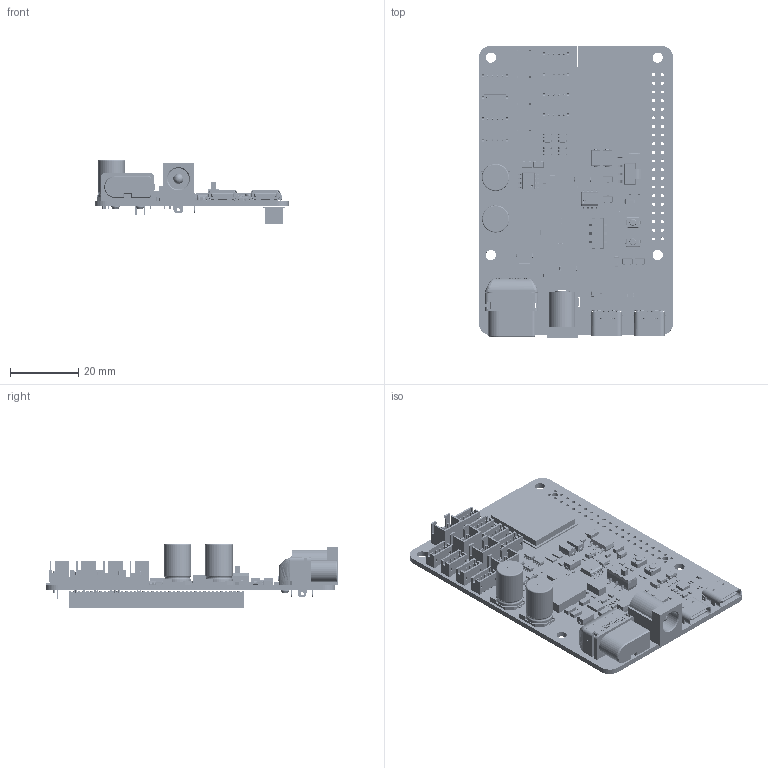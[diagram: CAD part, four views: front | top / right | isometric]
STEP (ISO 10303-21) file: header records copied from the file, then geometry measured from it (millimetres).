
FILE_DESCRIPTION(('Open CASCADE Model'),'2;1');
FILE_NAME('Open CASCADE Shape Model','2024-05-24T09:20:49',('Author'),( 'Open CASCADE'),'Open CASCADE STEP processor 6.5','Open CASCADE 6.5' ,'Unknown');
FILE_SCHEMA(('AUTOMOTIVE_DESIGN { 1 0 10303 214 1 1 1 1 }'));
Length unit declared in the file: millimetre
Products named in the file (230): PCB; Board; U11; SOT23-5-2; SOT23-5-14113_AF0_ASM; SOT23-5AND6_00; SOT23-5-14065_AF0; U10; U9; U8; R11; R0402; R_0402-5222_AF0_ASM; R_0402-3099_AF0_ASM; _2_1_20001; 5_1_2_A; _7_AF0; D8; SMA; SMA-4715_AF0_ASM; SMA-5401_AF0; R3; R4; R14; R16; J5; User_Library-XH2_54_ZC_2P; J4; P10; hc-zh1_5-4a; P9; P8; P7; P6; P5; P4; P3; J3; J2; VT2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
Assembly tree (329 placements, depth 6):
  PCB
    Board
    U11
      SOT23-5-2
        SOT23-5-14113_AF0_ASM
          SOT23-5AND6_00  x5
          SOT23-5-14065_AF0
    U10
      SOT23-5-2
        SOT23-5-14113_AF0_ASM
          SOT23-5AND6_00  x5
          SOT23-5-14065_AF0
    U9
      SOT23-5-2
        SOT23-5-14113_AF0_ASM
          SOT23-5AND6_00  x5
          SOT23-5-14065_AF0
    U8
      SOT23-5-2
        SOT23-5-14113_AF0_ASM
          SOT23-5AND6_00  x5
          SOT23-5-14065_AF0
    R11
      R0402
        R_0402-5222_AF0_ASM
          R_0402-3099_AF0_ASM
            _2_1_20001
            5_1_2_A
            _7_AF0
    D8
      SMA
        SMA-4715_AF0_ASM
          SMA-5401_AF0
    R3
      R0402
        R_0402-5222_AF0_ASM
          R_0402-3099_AF0_ASM
            _2_1_20001
            5_1_2_A
            _7_AF0
    R4
      R0402
        R_0402-5222_AF0_ASM
          R_0402-3099_AF0_ASM
            _2_1_20001
            5_1_2_A
            _7_AF0
    R14
      R0402
        R_0402-5222_AF0_ASM
          R_0402-3099_AF0_ASM
            _2_1_20001
            5_1_2_A
            _7_AF0
    R16
      R0402
        R_0402-5222_AF0_ASM
          R_0402-3099_AF0_ASM
            _2_1_20001
            5_1_2_A
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Bounding box: 57.02 x 85.96 x 18.85 mm (x, y, z)
Volume: 14898.6 mm3; surface area: 25222.3 mm2
Topology: 371 solids, 400 shells, 42862 faces, 114207 edges, 74807 vertices
Faces by surface type: plane 30071, extrusion 7783, cylinder 3354, bspline 896, sphere 470, torus 196, cone 84, revolution 8
Full cylindrical faces by diameter (mm): 0.7 x32, 0.762 x4, 0.95 x40, 1.1 x8, 1.8 x2, 2.9 x2, 3 x4
Entity records: 854747 total; most frequent: CARTESIAN_POINT 323920, DIRECTION 78567, VECTOR 56317, LINE 54950, ORIENTED_EDGE 52852, PCURVE 52852, DEFINITIONAL_REPRESENTATION 52852, EDGE_CURVE 26427
